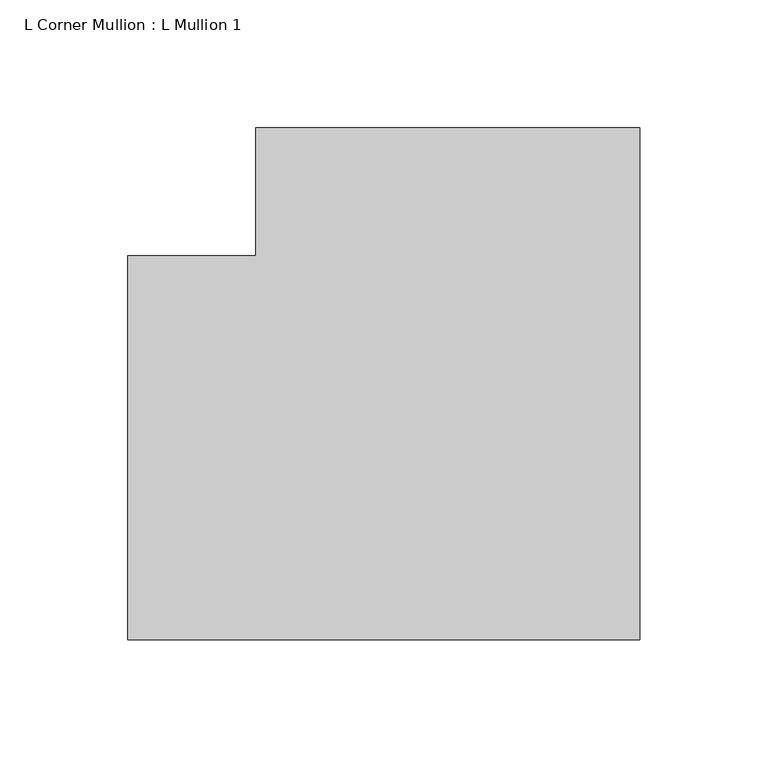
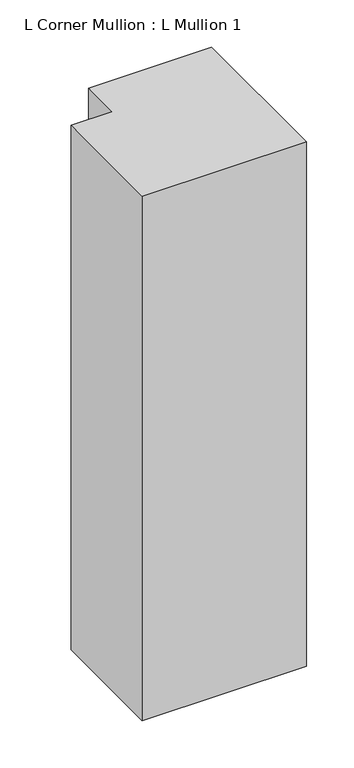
"""IFC4 building model written with IfcOpenShell, lengths in millimetres: member geometry, L Corner Mullion : L Mullion 1."""

from ifc_helpers import new_model, si_unit, frame, origin, place, context, project, spatial, polyline, outline, extrude, source, transform, mapped, element, save


def l_corner_mullion_l_mullion_1_2b73dffd(model_context):
    return source(origin(), model_context, "Body", "SweptSolid", [
        extrude(outline(polyline([(75.0, 125.0), (75.0, -75.0), (-125.0, -75.0), (-125.0, 75.0), (-75.0, 75.0), (-75.0, 125.0), (75.0, 125.0)])), frame((0.0, 0.0, -675.0), z_axis=(0.0, 0.0, 1.0), x_axis=(1.0, 0.0, 0.0)), (0.0, 0.0, 1.0), 675.0),
    ])


if __name__ == "__main__":
    model = new_model("IFC4")
    model_context = context("Model", 3, world=origin())
    ifc_project = project(units=[si_unit("LENGTHUNIT", "METRE", prefix="MILLI")], contexts=[model_context])
    site = spatial("IfcSite", under=ifc_project)
    building = spatial("IfcBuilding", under=site)
    placement = place(None, origin())
    l_corner_mullion_l_mullion_1_shape = l_corner_mullion_l_mullion_1_2b73dffd(model_context)
    element("IfcMember", 1, ObjectType="L Corner Mullion : L Mullion 1", at=placement, inside=building, context=model_context, shape_type="MappedRepresentation", body=[
        mapped(l_corner_mullion_l_mullion_1_shape, transform((0.0, 0.0, 0.0), x_axis=(1.0, 0.0, 0.0), y_axis=(0.0, 1.0, 0.0), z_axis=(0.0, 0.0, 1.0))),
    ])
    save(model, "model.ifc")
